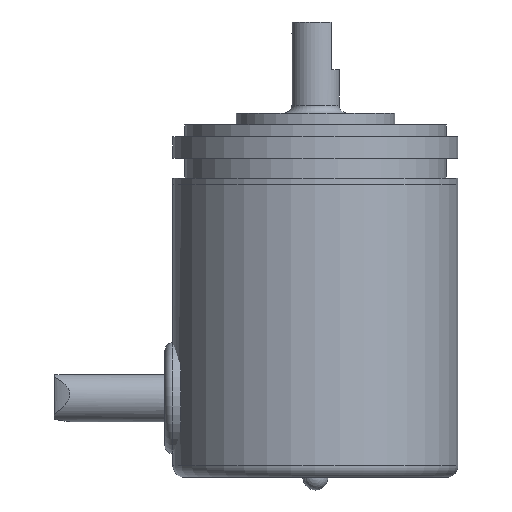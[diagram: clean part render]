
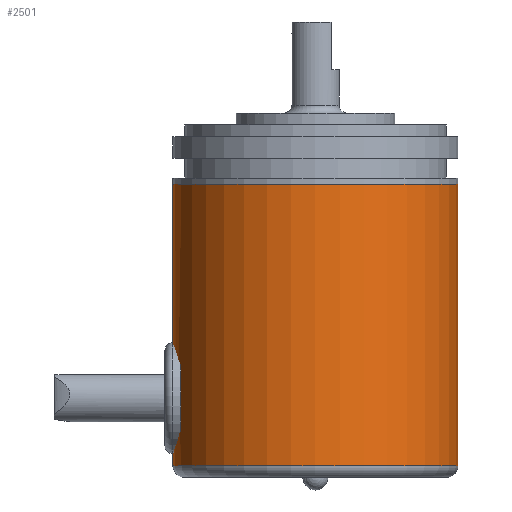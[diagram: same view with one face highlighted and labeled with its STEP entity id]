
A CAD part, front view. The second image highlights one B-rep face of the part: STEP entity #2501.
In plain terms, the highlighted cylindrical face has radius 18 mm (diameter 36 mm), a full revolution.
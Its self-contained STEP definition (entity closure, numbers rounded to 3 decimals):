
#55 = DIRECTION ( 'NONE',  ( 0., 0., -1. ) ) ;
#85 = CARTESIAN_POINT ( 'NONE',  ( -60.462, -28.253, -37.689 ) ) ;
#113 = CARTESIAN_POINT ( 'NONE',  ( -60.588, -29.819, -38.166 ) ) ;
#178 = CARTESIAN_POINT ( 'NONE',  ( -60.339, -27.426, -37.174 ) ) ;
#202 = CARTESIAN_POINT ( 'NONE',  ( -60.294, -27.176, -36.968 ) ) ;
#210 = DIRECTION ( 'NONE',  ( 0., 0., 1. ) ) ;
#215 = CARTESIAN_POINT ( 'NONE',  ( -59.927, -35.35, -31.896 ) ) ;
#229 = CARTESIAN_POINT ( 'NONE',  ( -60.598, -29.813, -28.198 ) ) ;
#273 = CARTESIAN_POINT ( 'NONE',  ( -60.528, -32.089, -28.454 ) ) ;
#429 = CARTESIAN_POINT ( 'NONE',  ( -60.462, -32.702, -37.688 ) ) ;
#565 = EDGE_LOOP ( 'NONE', ( #4866, #4872 ) ) ;
#590 = CARTESIAN_POINT ( 'NONE',  ( -59.978, -25.796, -31.432 ) ) ;
#622 = CARTESIAN_POINT ( 'NONE',  ( -59.889, -25.476, -32.867 ) ) ;
#723 = CARTESIAN_POINT ( 'NONE',  ( -60.554, -31.774, -28.357 ) ) ;
#817 = CARTESIAN_POINT ( 'NONE',  ( -60.069, -34.808, -30.693 ) ) ;
#847 = CARTESIAN_POINT ( 'NONE',  ( -59.925, -35.349, -34.334 ) ) ;
#1038 = CARTESIAN_POINT ( 'NONE',  ( -59.889, -25.477, -33.861 ) ) ;
#1098 = CARTESIAN_POINT ( 'NONE',  ( -60.154, -26.499, -36.246 ) ) ;
#1127 = CARTESIAN_POINT ( 'NONE',  ( -60.528, -28.864, -37.942 ) ) ;
#1224 = CARTESIAN_POINT ( 'NONE',  ( -59.889, -35.476, -32.535 ) ) ;
#1288 = CARTESIAN_POINT ( 'NONE',  ( -60.2, -34.247, -29.898 ) ) ;
#1322 = CARTESIAN_POINT ( 'NONE',  ( -59.898, -35.445, -33.855 ) ) ;
#1324 = VERTEX_POINT ( 'NONE', #4370 ) ;
#1492 = CARTESIAN_POINT ( 'NONE',  ( -60.561, -31.781, -38.071 ) ) ;
#1547 = CARTESIAN_POINT ( 'NONE',  ( -59.927, -25.603, -34.5 ) ) ;
#1574 = EDGE_LOOP ( 'NONE', ( #4743 ) ) ;
#1585 = CYLINDRICAL_SURFACE ( 'NONE', #1659, 18. ) ;
#1616 = FACE_BOUND ( 'NONE', #565, .T. ) ;
#1659 = AXIS2_PLACEMENT_3D ( 'NONE', #3600, #2976, #2519 ) ;
#1679 = CARTESIAN_POINT ( 'NONE',  ( -60.029, -34.968, -35.42 ) ) ;
#1708 = CARTESIAN_POINT ( 'NONE',  ( -60.03, -34.961, -30.98 ) ) ;
#1750 = CARTESIAN_POINT ( 'NONE',  ( -60.2, -26.707, -29.897 ) ) ;
#1799 = CARTESIAN_POINT ( 'NONE',  ( -60.462, -32.7, -28.708 ) ) ;
#1842 = EDGE_LOOP ( 'NONE', ( #2355 ) ) ;
#1937 = CARTESIAN_POINT ( 'NONE',  ( -60.294, -33.779, -36.967 ) ) ;
#2066 = FACE_OUTER_BOUND ( 'NONE', #1574, .T. ) ;
#2067 = EDGE_CURVE ( 'NONE', #2101, #1324, #4963, .T. ) ;
#2101 = VERTEX_POINT ( 'NONE', #5364 ) ;
#2123 = CARTESIAN_POINT ( 'NONE',  ( -60.069, -26.145, -35.703 ) ) ;
#2152 = CARTESIAN_POINT ( 'NONE',  ( -60.03, -25.992, -35.416 ) ) ;
#2194 = B_SPLINE_CURVE_WITH_KNOTS ( 'NONE', 3,
 ( #5953, #5068, #113, #2571, #1127, #85, #5453, #178, #202, #3975, #1098, #5924, #2123, #2152, #4098, #1547, #1038, #622, #4940, #3506, #3032, #4975, #590, #4724, #6161, #2662, #1750, #3210, #3679, #4123, #5572, #6065, #229, #5095 ),
 .UNSPECIFIED., .F., .F.,
 ( 4, 2, 2, 2, 2, 2, 2, 2, 2, 2, 2, 2, 2, 2, 2, 2, 4 ),
 ( 0., 0.063, 0.125, 0.188, 0.25, 0.313, 0.344, 0.375, 0.5, 0.563, 0.594, 0.625, 0.688, 0.75, 0.813, 0.875, 1. ),
 .UNSPECIFIED. ) ;
#2280 = CARTESIAN_POINT ( 'NONE',  ( -60.012, -35.03, -31.126 ) ) ;
#2355 = ORIENTED_EDGE ( 'NONE', *, *, #4022, .F. ) ;
#2420 = CARTESIAN_POINT ( 'NONE',  ( -60.2, -34.246, -36.5 ) ) ;
#2456 = CARTESIAN_POINT ( 'NONE',  ( -60.424, -32.988, -37.535 ) ) ;
#2501 = ADVANCED_FACE ( 'NONE', ( #2066, #1616, #4981 ), #1585, .T. ) ;
#2519 = DIRECTION ( 'NONE',  ( 0., -1., 0. ) ) ;
#2571 = CARTESIAN_POINT ( 'NONE',  ( -60.554, -29.179, -38.039 ) ) ;
#2574 = EDGE_CURVE ( 'NONE', #4031, #4031, #5849, .T. ) ;
#2662 = CARTESIAN_POINT ( 'NONE',  ( -60.153, -26.499, -30.15 ) ) ;
#2672 = CARTESIAN_POINT ( 'NONE',  ( -60.068, -34.815, -35.707 ) ) ;
#2800 = CARTESIAN_POINT ( 'NONE',  ( -60.598, -30.477, -38.198 ) ) ;
#2839 = CARTESIAN_POINT ( 'NONE',  ( -60.339, -33.527, -37.174 ) ) ;
#2976 = DIRECTION ( 'NONE',  ( 0., 0., -1. ) ) ;
#3032 = CARTESIAN_POINT ( 'NONE',  ( -59.937, -25.643, -31.903 ) ) ;
#3144 = VERTEX_POINT ( 'NONE', #5058 ) ;
#3162 = CARTESIAN_POINT ( 'NONE',  ( -60.598, -30.808, -28.198 ) ) ;
#3190 = CARTESIAN_POINT ( 'NONE',  ( -60.153, -34.455, -36.246 ) ) ;
#3210 = CARTESIAN_POINT ( 'NONE',  ( -60.294, -27.174, -29.429 ) ) ;
#3253 = CARTESIAN_POINT ( 'NONE',  ( -60.154, -34.454, -30.15 ) ) ;
#3506 = CARTESIAN_POINT ( 'NONE',  ( -59.925, -25.604, -32.062 ) ) ;
#3600 = CARTESIAN_POINT ( 'NONE',  ( -42.598, -30.477, -6.198 ) ) ;
#3679 = CARTESIAN_POINT ( 'NONE',  ( -60.339, -27.426, -29.222 ) ) ;
#3686 = AXIS2_PLACEMENT_3D ( 'NONE', #3847, #55, #4399 ) ;
#3722 = CARTESIAN_POINT ( 'NONE',  ( -60.339, -33.527, -29.222 ) ) ;
#3847 = CARTESIAN_POINT ( 'NONE',  ( -42.598, -30.477, -41.698 ) ) ;
#3902 = CARTESIAN_POINT ( 'NONE',  ( -42.598, -48.477, -6.198 ) ) ;
#3975 = CARTESIAN_POINT ( 'NONE',  ( -60.2, -26.706, -36.498 ) ) ;
#3995 = CIRCLE ( 'NONE', #3686, 18. ) ;
#4022 = EDGE_CURVE ( 'NONE', #3144, #3144, #3995, .T. ) ;
#4031 = VERTEX_POINT ( 'NONE', #3902 ) ;
#4098 = CARTESIAN_POINT ( 'NONE',  ( -60.012, -25.923, -35.27 ) ) ;
#4105 = EDGE_CURVE ( 'NONE', #1324, #2101, #2194, .T. ) ;
#4108 = CARTESIAN_POINT ( 'NONE',  ( -59.963, -35.214, -34.806 ) ) ;
#4123 = CARTESIAN_POINT ( 'NONE',  ( -60.424, -27.965, -28.861 ) ) ;
#4136 = CARTESIAN_POINT ( 'NONE',  ( -60.588, -31.134, -28.23 ) ) ;
#4370 = CARTESIAN_POINT ( 'NONE',  ( -60.598, -30.477, -38.198 ) ) ;
#4399 = DIRECTION ( 'NONE',  ( 0., 1., 0. ) ) ;
#4405 = CARTESIAN_POINT ( 'NONE',  ( -60.598, -31.14, -38.198 ) ) ;
#4591 = CARTESIAN_POINT ( 'NONE',  ( -59.937, -35.31, -34.493 ) ) ;
#4724 = CARTESIAN_POINT ( 'NONE',  ( -60.029, -25.985, -30.976 ) ) ;
#4743 = ORIENTED_EDGE ( 'NONE', *, *, #2574, .F. ) ;
#4866 = ORIENTED_EDGE ( 'NONE', *, *, #4105, .T. ) ;
#4872 = ORIENTED_EDGE ( 'NONE', *, *, #2067, .T. ) ;
#4940 = CARTESIAN_POINT ( 'NONE',  ( -59.898, -25.508, -32.541 ) ) ;
#4963 = B_SPLINE_CURVE_WITH_KNOTS ( 'NONE', 3,
 ( #5612, #3162, #4136, #723, #273, #1799, #5228, #3722, #5670, #1288, #3253, #5197, #817, #1708, #2280, #215, #1224, #5702, #1322, #847, #4591, #4108, #5106, #1679, #2672, #3190, #2420, #1937, #2839, #2456, #429, #1492, #4405, #2800 ),
 .UNSPECIFIED., .F., .F.,
 ( 4, 2, 2, 2, 2, 2, 2, 2, 2, 2, 2, 2, 2, 2, 2, 2, 4 ),
 ( 0., 0.063, 0.125, 0.188, 0.25, 0.313, 0.344, 0.375, 0.5, 0.563, 0.594, 0.625, 0.688, 0.75, 0.812, 0.875, 1. ),
 .UNSPECIFIED. ) ;
#4975 = CARTESIAN_POINT ( 'NONE',  ( -59.963, -25.739, -31.59 ) ) ;
#4981 = FACE_OUTER_BOUND ( 'NONE', #1842, .T. ) ;
#5039 = AXIS2_PLACEMENT_3D ( 'NONE', #6170, #210, #5663 ) ;
#5058 = CARTESIAN_POINT ( 'NONE',  ( -42.598, -12.477, -41.698 ) ) ;
#5068 = CARTESIAN_POINT ( 'NONE',  ( -60.598, -30.145, -38.198 ) ) ;
#5095 = CARTESIAN_POINT ( 'NONE',  ( -60.598, -30.477, -28.198 ) ) ;
#5106 = CARTESIAN_POINT ( 'NONE',  ( -59.978, -35.157, -34.964 ) ) ;
#5197 = CARTESIAN_POINT ( 'NONE',  ( -60.089, -34.725, -30.554 ) ) ;
#5228 = CARTESIAN_POINT ( 'NONE',  ( -60.424, -32.988, -28.861 ) ) ;
#5364 = CARTESIAN_POINT ( 'NONE',  ( -60.598, -30.477, -28.198 ) ) ;
#5453 = CARTESIAN_POINT ( 'NONE',  ( -60.424, -27.965, -37.535 ) ) ;
#5572 = CARTESIAN_POINT ( 'NONE',  ( -60.462, -28.251, -28.708 ) ) ;
#5612 = CARTESIAN_POINT ( 'NONE',  ( -60.598, -30.477, -28.198 ) ) ;
#5663 = DIRECTION ( 'NONE',  ( 0., -1., 0. ) ) ;
#5670 = CARTESIAN_POINT ( 'NONE',  ( -60.294, -33.778, -29.428 ) ) ;
#5702 = CARTESIAN_POINT ( 'NONE',  ( -59.889, -35.477, -33.529 ) ) ;
#5849 = CIRCLE ( 'NONE', #5039, 18. ) ;
#5924 = CARTESIAN_POINT ( 'NONE',  ( -60.089, -26.228, -35.842 ) ) ;
#5953 = CARTESIAN_POINT ( 'NONE',  ( -60.598, -30.477, -38.198 ) ) ;
#6065 = CARTESIAN_POINT ( 'NONE',  ( -60.561, -29.172, -28.326 ) ) ;
#6161 = CARTESIAN_POINT ( 'NONE',  ( -60.068, -26.138, -30.689 ) ) ;
#6170 = CARTESIAN_POINT ( 'NONE',  ( -42.598, -30.477, -6.198 ) ) ;
